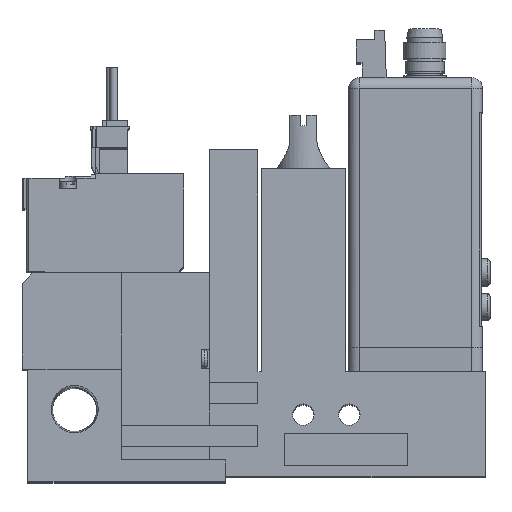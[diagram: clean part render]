
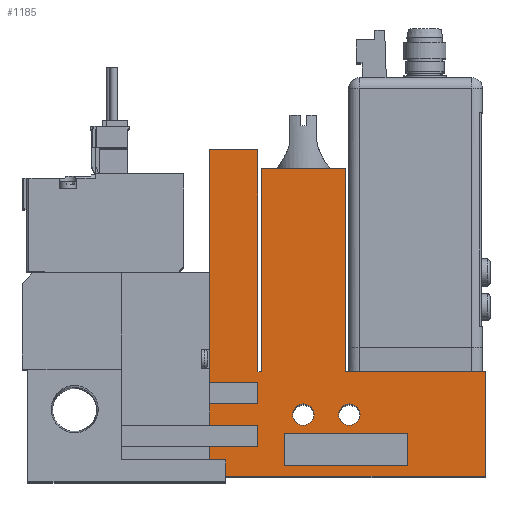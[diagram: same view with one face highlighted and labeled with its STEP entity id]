
A CAD part, top view. The second image highlights one B-rep face of the part: STEP entity #1185.
In plain terms, the highlighted planar face has unit normal (0, 0, 1).
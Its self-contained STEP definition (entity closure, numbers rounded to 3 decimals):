
#1185=ADVANCED_FACE('',(#5201,#5202,#5203,#5204),#5205,.T.);
#5201=FACE_OUTER_BOUND('',#13816,.T.);
#5202=FACE_BOUND('',#13817,.T.);
#5203=FACE_BOUND('',#13818,.T.);
#5204=FACE_BOUND('',#13819,.T.);
#5205=PLANE('',#13820);
#13816=EDGE_LOOP('',(#24216,#24217,#24218,#24219,#24220,#24221,#24222,#24223,#24224,#24225,#24226,#24227,#24228,#24229,#24230,#24231,#24232,#24233));
#13817=EDGE_LOOP('',(#24234,#24235,#24236,#24237));
#13818=EDGE_LOOP('',(#24238));
#13819=EDGE_LOOP('',(#24239));
#13820=AXIS2_PLACEMENT_3D('',#24240,#24241,#24242);
#24216=ORIENTED_EDGE('',*,*,#52176,.T.);
#24217=ORIENTED_EDGE('',*,*,#52177,.T.);
#24218=ORIENTED_EDGE('',*,*,#52157,.T.);
#24219=ORIENTED_EDGE('',*,*,#52165,.T.);
#24220=ORIENTED_EDGE('',*,*,#52178,.T.);
#24221=ORIENTED_EDGE('',*,*,#52179,.T.);
#24222=ORIENTED_EDGE('',*,*,#52180,.T.);
#24223=ORIENTED_EDGE('',*,*,#52181,.T.);
#24224=ORIENTED_EDGE('',*,*,#52182,.T.);
#24225=ORIENTED_EDGE('',*,*,#52183,.T.);
#24226=ORIENTED_EDGE('',*,*,#52109,.T.);
#24227=ORIENTED_EDGE('',*,*,#52119,.T.);
#24228=ORIENTED_EDGE('',*,*,#52184,.T.);
#24229=ORIENTED_EDGE('',*,*,#52185,.T.);
#24230=ORIENTED_EDGE('',*,*,#52186,.T.);
#24231=ORIENTED_EDGE('',*,*,#52187,.T.);
#24232=ORIENTED_EDGE('',*,*,#52188,.T.);
#24233=ORIENTED_EDGE('',*,*,#52189,.T.);
#24234=ORIENTED_EDGE('',*,*,#52150,.T.);
#24235=ORIENTED_EDGE('',*,*,#52190,.T.);
#24236=ORIENTED_EDGE('',*,*,#52191,.T.);
#24237=ORIENTED_EDGE('',*,*,#52192,.T.);
#24238=ORIENTED_EDGE('',*,*,#52193,.T.);
#24239=ORIENTED_EDGE('',*,*,#52194,.T.);
#24240=CARTESIAN_POINT('',(0.0,0.0,10.0));
#24241=DIRECTION('',(0.0,0.0,1.0));
#24242=DIRECTION('',(1.0,0.0,0.0));
#52109=EDGE_CURVE('',#62895,#62893,#62896,.T.);
#52119=EDGE_CURVE('',#62893,#62912,#62914,.T.);
#52150=EDGE_CURVE('',#62967,#62972,#62974,.T.);
#52157=EDGE_CURVE('',#62980,#62985,#62987,.T.);
#52165=EDGE_CURVE('',#62985,#63000,#63002,.T.);
#52176=EDGE_CURVE('',#63021,#63022,#63023,.T.);
#52177=EDGE_CURVE('',#63022,#62980,#63024,.T.);
#52178=EDGE_CURVE('',#63000,#63025,#63026,.T.);
#52179=EDGE_CURVE('',#63025,#63027,#63028,.T.);
#52180=EDGE_CURVE('',#63027,#63029,#63030,.T.);
#52181=EDGE_CURVE('',#63029,#63031,#63032,.T.);
#52182=EDGE_CURVE('',#63031,#63033,#63034,.T.);
#52183=EDGE_CURVE('',#63033,#62895,#63035,.T.);
#52184=EDGE_CURVE('',#62912,#63036,#63037,.T.);
#52185=EDGE_CURVE('',#63036,#63038,#63039,.T.);
#52186=EDGE_CURVE('',#63038,#63040,#63041,.T.);
#52187=EDGE_CURVE('',#63040,#63042,#63043,.T.);
#52188=EDGE_CURVE('',#63042,#63044,#63045,.T.);
#52189=EDGE_CURVE('',#63044,#63021,#63046,.T.);
#52190=EDGE_CURVE('',#62972,#63047,#63048,.T.);
#52191=EDGE_CURVE('',#63047,#63049,#63050,.T.);
#52192=EDGE_CURVE('',#63049,#62967,#63051,.T.);
#52193=EDGE_CURVE('',#63052,#63052,#63053,.T.);
#52194=EDGE_CURVE('',#63054,#63054,#63055,.T.);
#62893=VERTEX_POINT('',#78893);
#62895=VERTEX_POINT('',#78896);
#62896=LINE('',#78897,#78898);
#62912=VERTEX_POINT('',#78922);
#62914=LINE('',#78925,#78926);
#62967=VERTEX_POINT('',#79003);
#62972=VERTEX_POINT('',#79010);
#62974=LINE('',#79013,#79014);
#62980=VERTEX_POINT('',#79023);
#62985=VERTEX_POINT('',#79030);
#62987=LINE('',#79033,#79034);
#63000=VERTEX_POINT('',#79053);
#63002=LINE('',#79056,#79057);
#63021=VERTEX_POINT('',#79086);
#63022=VERTEX_POINT('',#79087);
#63023=LINE('',#79088,#79089);
#63024=LINE('',#79090,#79091);
#63025=VERTEX_POINT('',#79092);
#63026=LINE('',#79093,#79094);
#63027=VERTEX_POINT('',#79095);
#63028=LINE('',#79096,#79097);
#63029=VERTEX_POINT('',#79098);
#63030=LINE('',#79099,#79100);
#63031=VERTEX_POINT('',#79101);
#63032=LINE('',#79102,#79103);
#63033=VERTEX_POINT('',#79104);
#63034=LINE('',#79105,#79106);
#63035=LINE('',#79107,#79108);
#63036=VERTEX_POINT('',#79109);
#63037=LINE('',#79110,#79111);
#63038=VERTEX_POINT('',#79112);
#63039=LINE('',#79113,#79114);
#63040=VERTEX_POINT('',#79115);
#63041=LINE('',#79116,#79117);
#63042=VERTEX_POINT('',#79118);
#63043=LINE('',#79119,#79120);
#63044=VERTEX_POINT('',#79121);
#63045=LINE('',#79122,#79123);
#63046=LINE('',#79124,#79125);
#63047=VERTEX_POINT('',#79126);
#63048=LINE('',#79127,#79128);
#63049=VERTEX_POINT('',#79129);
#63050=LINE('',#79130,#79131);
#63051=LINE('',#79132,#79133);
#63052=VERTEX_POINT('',#79134);
#63053=CIRCLE('',#79135,2.0);
#63054=VERTEX_POINT('',#79136);
#63055=CIRCLE('',#79137,2.0);
#78893=CARTESIAN_POINT('',(86.6,19.5,10.0));
#78896=CARTESIAN_POINT('',(86.6,0.0,10.0));
#78897=CARTESIAN_POINT('',(86.6,0.0,10.0));
#78898=VECTOR('',#101979,1.0);
#78922=CARTESIAN_POINT('',(60.45,19.5,10.0));
#78925=CARTESIAN_POINT('',(86.6,19.5,10.0));
#78926=VECTOR('',#101989,1.0);
#79003=CARTESIAN_POINT('',(49.1,2.0,10.0));
#79010=CARTESIAN_POINT('',(49.1,8.0,10.0));
#79013=CARTESIAN_POINT('',(49.1,0.0,10.0));
#79014=VECTOR('',#102026,1.0);
#79023=CARTESIAN_POINT('',(44.1,17.5,10.0));
#79030=CARTESIAN_POINT('',(44.1,13.5,10.0));
#79033=CARTESIAN_POINT('',(44.1,0.0,10.0));
#79034=VECTOR('',#102033,1.0);
#79053=CARTESIAN_POINT('',(35.1,13.5,10.0));
#79056=CARTESIAN_POINT('',(0.0,13.5,10.0));
#79057=VECTOR('',#102041,1.0);
#79086=CARTESIAN_POINT('',(35.1,61.0,10.0));
#79087=CARTESIAN_POINT('',(35.1,17.5,10.0));
#79088=CARTESIAN_POINT('',(35.1,61.0,10.0));
#79089=VECTOR('',#102052,1.0);
#79090=CARTESIAN_POINT('',(0.0,17.5,10.0));
#79091=VECTOR('',#102053,1.0);
#79092=CARTESIAN_POINT('',(35.1,9.5,10.0));
#79093=CARTESIAN_POINT('',(35.1,0.0,10.0));
#79094=VECTOR('',#102054,1.0);
#79095=CARTESIAN_POINT('',(44.1,9.5,10.0));
#79096=CARTESIAN_POINT('',(0.0,9.5,10.0));
#79097=VECTOR('',#102055,1.0);
#79098=CARTESIAN_POINT('',(44.1,5.5,10.0));
#79099=CARTESIAN_POINT('',(44.1,0.0,10.0));
#79100=VECTOR('',#102056,1.0);
#79101=CARTESIAN_POINT('',(35.1,5.5,10.0));
#79102=CARTESIAN_POINT('',(0.0,5.5,10.0));
#79103=VECTOR('',#102057,1.0);
#79104=CARTESIAN_POINT('',(35.1,0.0,10.0));
#79105=CARTESIAN_POINT('',(35.1,0.0,10.0));
#79106=VECTOR('',#102058,1.0);
#79107=CARTESIAN_POINT('',(18.6,0.0,10.0));
#79108=VECTOR('',#102059,1.0);
#79109=CARTESIAN_POINT('',(60.45,57.5,10.0));
#79110=CARTESIAN_POINT('',(60.45,19.5,10.0));
#79111=VECTOR('',#102060,1.0);
#79112=CARTESIAN_POINT('',(44.75,57.5,10.0));
#79113=CARTESIAN_POINT('',(60.45,57.5,10.0));
#79114=VECTOR('',#102061,1.0);
#79115=CARTESIAN_POINT('',(44.75,19.5,10.0));
#79116=CARTESIAN_POINT('',(44.75,57.5,10.0));
#79117=VECTOR('',#102062,1.0);
#79118=CARTESIAN_POINT('',(44.1,19.5,10.0));
#79119=CARTESIAN_POINT('',(44.75,19.5,10.0));
#79120=VECTOR('',#102063,1.0);
#79121=CARTESIAN_POINT('',(44.1,61.0,10.0));
#79122=CARTESIAN_POINT('',(44.1,19.5,10.0));
#79123=VECTOR('',#102064,1.0);
#79124=CARTESIAN_POINT('',(44.1,61.0,10.0));
#79125=VECTOR('',#102065,1.0);
#79126=CARTESIAN_POINT('',(72.1,8.0,10.0));
#79127=CARTESIAN_POINT('',(0.0,8.0,10.0));
#79128=VECTOR('',#102066,1.0);
#79129=CARTESIAN_POINT('',(72.1,2.0,10.0));
#79130=CARTESIAN_POINT('',(72.1,0.0,10.0));
#79131=VECTOR('',#102067,1.0);
#79132=CARTESIAN_POINT('',(0.0,2.0,10.0));
#79133=VECTOR('',#102068,1.0);
#79134=CARTESIAN_POINT('',(54.6,11.5,10.0));
#79135=AXIS2_PLACEMENT_3D('',#102069,#102070,#102071);
#79136=CARTESIAN_POINT('',(63.2,11.5,10.0));
#79137=AXIS2_PLACEMENT_3D('',#102072,#102073,#102074);
#101979=DIRECTION('',(0.0,1.0,0.0));
#101989=DIRECTION('',(-1.0,0.0,0.0));
#102026=DIRECTION('',(0.0,1.0,0.0));
#102033=DIRECTION('',(0.0,-1.0,0.0));
#102041=DIRECTION('',(-1.0,0.0,0.0));
#102052=DIRECTION('',(0.0,-1.0,0.0));
#102053=DIRECTION('',(1.0,0.0,0.0));
#102054=DIRECTION('',(0.0,-1.0,0.0));
#102055=DIRECTION('',(1.0,0.0,0.0));
#102056=DIRECTION('',(0.0,-1.0,0.0));
#102057=DIRECTION('',(-1.0,0.0,0.0));
#102058=DIRECTION('',(0.0,-1.0,0.0));
#102059=DIRECTION('',(1.0,0.0,0.0));
#102060=DIRECTION('',(0.0,1.0,0.0));
#102061=DIRECTION('',(-1.0,0.0,0.0));
#102062=DIRECTION('',(0.0,-1.0,0.0));
#102063=DIRECTION('',(-1.0,0.0,0.0));
#102064=DIRECTION('',(0.0,1.0,0.0));
#102065=DIRECTION('',(-1.0,0.0,0.0));
#102066=DIRECTION('',(1.0,0.0,0.0));
#102067=DIRECTION('',(0.0,-1.0,0.0));
#102068=DIRECTION('',(-1.0,0.0,0.0));
#102069=CARTESIAN_POINT('',(52.6,11.5,10.0));
#102070=DIRECTION('',(0.0,0.0,-1.0));
#102071=DIRECTION('',(1.0,0.0,0.0));
#102072=CARTESIAN_POINT('',(61.2,11.5,10.0));
#102073=DIRECTION('',(0.0,0.0,-1.0));
#102074=DIRECTION('',(1.0,0.0,0.0));
